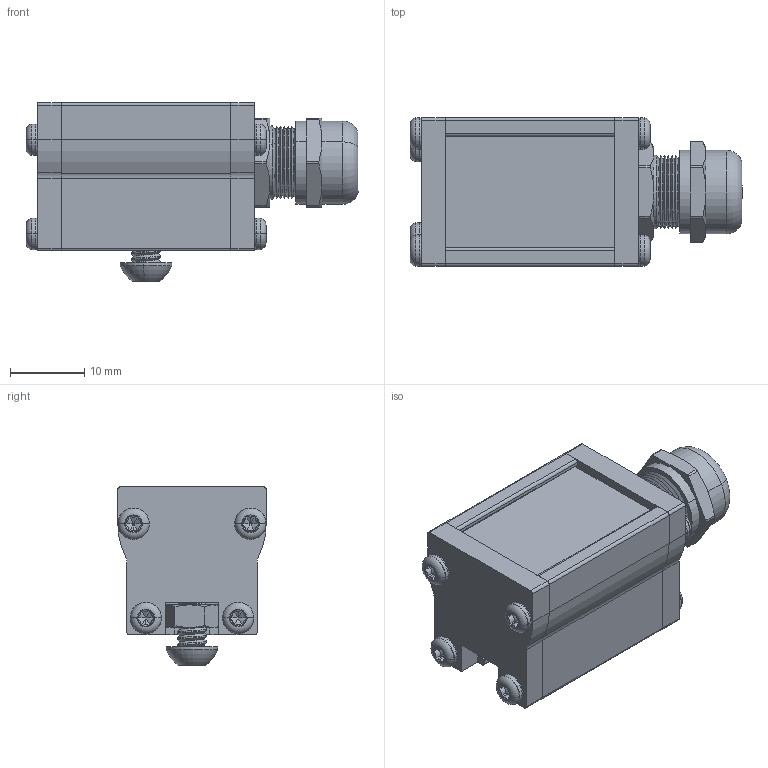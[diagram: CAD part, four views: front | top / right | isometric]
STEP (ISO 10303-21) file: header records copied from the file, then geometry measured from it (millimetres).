
FILE_DESCRIPTION (( 'STEP AP214' ), '1' );
FILE_NAME ('SL243 _NONSEALED__SL243 _NONSEALED_.stp', '2021-07-16T19:11:22', ( '' ), ( '' ), 'SwSTEP 2.0', 'SolidWorks 2018', '' );
FILE_SCHEMA (( 'AUTOMOTIVE_DESIGN' ));
Length unit declared in the file: inch
Products named in the file (10): BH-M4x6; HN-M4_90592A016; 093474_093474; 091064_Model_Dome Fittings_Thread Type and Size(Dome)_M10 x 1.5_Hazardous Location-Explosive Proof(ATEX and EExe Versions)_No_; 090875; 090876; 097366; 093469_093469; 097210; SL243 _NONSEALED__SL243 _NONSEALED_
Assembly tree (17 placements, depth 2):
  SL243 _NONSEALED__SL243 _NONSEALED_
    097210
    093469_093469  x2
    097366
    090876
    090875
    091064_Model_Dome Fittings_Thread Type and Size(Dome)_M10 x 1.5_Hazardous Location-Explosive Proof(ATEX and EExe Versions)_No_
    093474_093474  x8
    BH-M4x6
    HN-M4_90592A016
Bounding box: 44.75 x 20.02 x 24.1 mm (x, y, z)
Volume: 6532 mm3; surface area: 9579.4 mm2
Topology: 18 solids, 18 shells, 1507 faces, 3974 edges, 2452 vertices
Faces by surface type: cylinder 884, cone 325, plane 208, torus 58, bspline 32
Entity records: 20645 total; most frequent: CARTESIAN_POINT 6816, ORIENTED_EDGE 2812, DIRECTION 2722, EDGE_CURVE 1406, AXIS2_PLACEMENT_3D 1062, VERTEX_POINT 878, LINE 598, VECTOR 598
